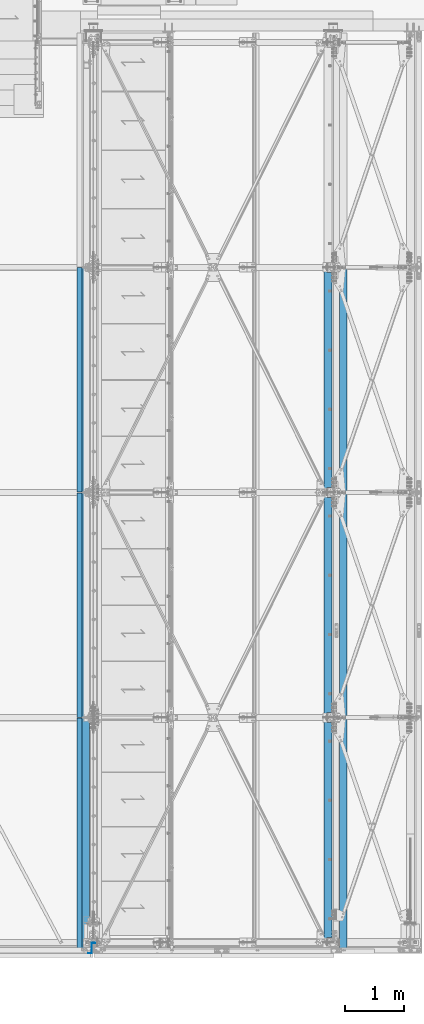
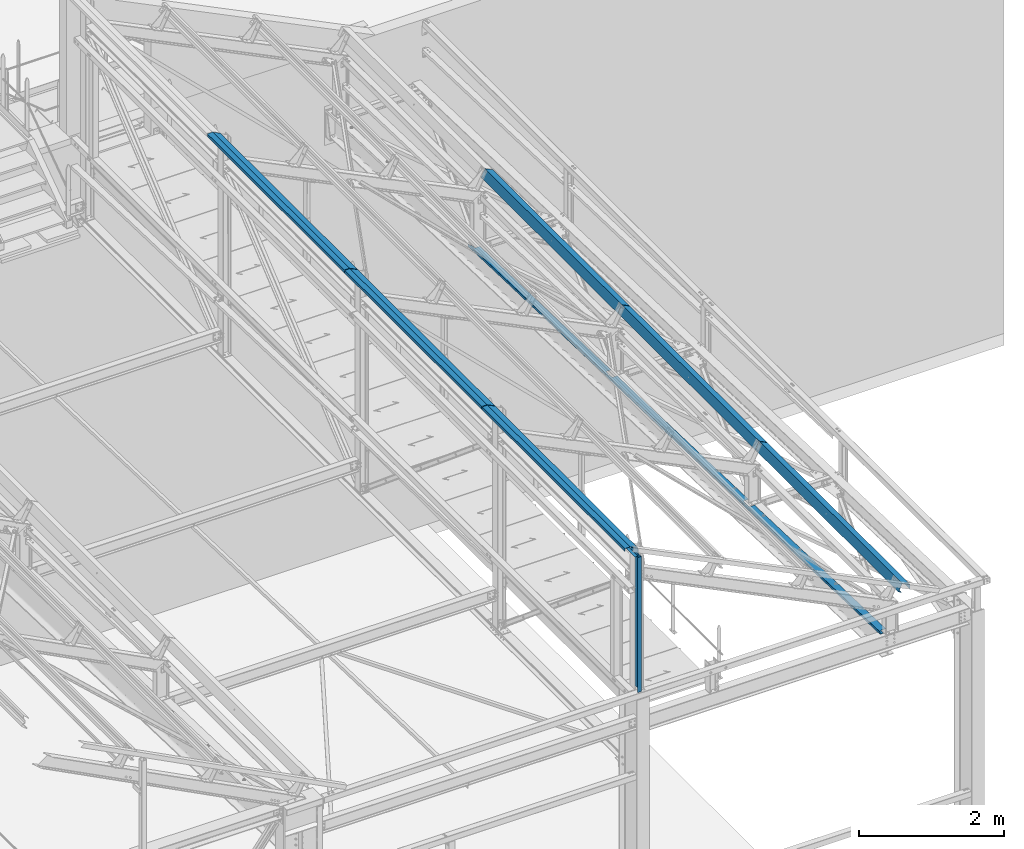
# One storey, part 350 of 362: 10 beams, 10 elements without a shape of their own.
"""IFC2X3 building model written with IfcOpenShell, lengths in millimetres."""

from ifc_helpers import new_model, si_unit, frame, origin_with_axes, place, context, subcontext, project, spatial, faceted_brep, material, type_object, element, aggregate, save


model = new_model("IFC2X3")

# Units and contexts
model_context = context("Model", 3, precision=1e-05, world=origin_with_axes())
body_context = subcontext(model_context, "Body", "Model", "MODEL_VIEW")
ifc_project = project(units=[si_unit("LENGTHUNIT", "METRE", prefix="MILLI"), si_unit("AREAUNIT", "SQUARE_METRE"), si_unit("VOLUMEUNIT", "CUBIC_METRE"), si_unit("MASSUNIT", "GRAM", prefix="KILO"), si_unit("TIMEUNIT", "SECOND"), si_unit("PLANEANGLEUNIT", "RADIAN"), si_unit("SOLIDANGLEUNIT", "STERADIAN"), si_unit("THERMODYNAMICTEMPERATUREUNIT", "DEGREE_CELSIUS"), si_unit("LUMINOUSINTENSITYUNIT", "LUMEN")], contexts=[model_context])

# Site, building, storey
site_placement = place(None, origin_with_axes())
site = spatial("IfcSite", under=ifc_project, at=site_placement, Name="Undefined", CompositionType="ELEMENT")
building_placement = place(site_placement, origin_with_axes())
building = spatial("IfcBuilding", under=site, at=building_placement, Name="Undefined", CompositionType="ELEMENT")
storey_placement = place(building_placement, origin_with_axes())
storey = spatial("IfcBuildingStorey", under=building, at=storey_placement, Name="Undefined", CompositionType="ELEMENT", Elevation=0.0)

# Assembly, beam
assembly_1_placement = place(storey_placement, origin_with_axes())
assembly_1 = element("IfcElementAssembly", 1, at=assembly_1_placement, inside=storey, Name="PANNE SHED", AssemblyPlace="NOTDEFINED", PredefinedType="NOTDEFINED")
ifc_material = material(Name="Undefined/S235-E24")
beam_type_1 = type_object("IfcBeamType", Name="PL3*3790", PredefinedType="NOTDEFINED")
beam_1_placement = place(assembly_1_placement, frame((38418.1250345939, 9500.00038595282, 8769.23312698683), z_axis=(0.0, 1.0, 0.0), x_axis=(-0.897398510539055, -1.29999898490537e-08, 0.441220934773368)))
beam_1 = element("IfcBeam", 2, at=beam_1_placement, type_object=beam_type_1, material=ifc_material, Name="PANNE SHED", ObjectType="PL3*3790", context=body_context, shape_type="Brep", body=[
    faceted_brep([(-3.49427864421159e-08, -1.49999999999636, -1895.0), (-3.52956703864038e-08, -1.5, 1895.0), (3.49573383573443e-08, 1.5, 1895.0), (3.53102223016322e-08, 1.5, -1895.0), (47.0000011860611, 1.49999889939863, 1895.0), (47.0000011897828, 1.49999889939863, -1895.0), (50.0000011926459, -1.50000117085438, -1895.0), (50.0000011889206, -1.50000117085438, 1895.0), (47.0000010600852, 135.50000220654, 1895.00000000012), (47.0000010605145, 135.500002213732, -1894.99999999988), (50.000001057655, 138.500002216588, -1894.99999999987), (50.0000010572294, 138.500002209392, 1895.00000000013), (-88.1320086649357, 135.500006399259, 1895.00000000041), (-88.1320086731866, 135.500006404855, -1894.99999999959), (-90.0000023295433, 138.500002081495, -1894.99999999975), (-90.0000023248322, 138.500002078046, 1895.00000000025), (-122.605485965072, 65.3844594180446, 1895.00000000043), (-122.605485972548, 65.3844594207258, -1894.99999999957), (-125.29768149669, 66.7081222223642, 1895.00000000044), (-125.297681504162, 66.708122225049, -1894.99999999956)], [[[0, 1, 2, 3]], [[3, 2, 4, 5]], [[1, 0, 6, 7]], [[5, 4, 8, 9]], [[7, 6, 10, 11]], [[9, 8, 12, 13]], [[11, 10, 14, 15]], [[13, 12, 16, 17]], [[12, 8, 4, 2, 1, 7, 11, 15, 18, 16]], [[15, 14, 19, 18]], [[14, 10, 6, 0, 3, 5, 9, 13, 17, 19]], [[18, 19, 17, 16]]]),
])
aggregate(assembly_1, [beam_1])

assembly_2_placement = place(storey_placement, origin_with_axes())
assembly_2 = element("IfcElementAssembly", 3, at=assembly_2_placement, inside=storey, Name="PANNE SHED", AssemblyPlace="NOTDEFINED", PredefinedType="NOTDEFINED")
beam_2_placement = place(assembly_2_placement, frame((38418.1250345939, 5700.00038595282, 8769.23312698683), z_axis=(0.0, 1.0, 0.0), x_axis=(-0.897398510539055, -1.29999898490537e-08, 0.441220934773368)))
beam_2 = element("IfcBeam", 4, at=beam_2_placement, type_object=beam_type_1, material=ifc_material, Name="PANNE SHED", ObjectType="PL3*3790", context=body_context, shape_type="Brep", body=[
    faceted_brep([(-3.49427864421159e-08, -1.49999999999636, -1895.0), (-3.52956703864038e-08, -1.5, 1895.0), (3.49573383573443e-08, 1.5, 1895.0), (3.53102223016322e-08, 1.5, -1895.0), (47.0000011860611, 1.49999889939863, 1895.0), (47.0000011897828, 1.49999889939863, -1895.0), (50.0000011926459, -1.50000117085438, -1895.0), (50.0000011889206, -1.50000117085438, 1895.0), (47.0000010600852, 135.50000220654, 1895.00000000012), (47.0000010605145, 135.500002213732, -1894.99999999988), (50.000001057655, 138.500002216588, -1894.99999999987), (50.0000010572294, 138.500002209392, 1895.00000000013), (-88.1320086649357, 135.500006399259, 1895.00000000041), (-88.1320086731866, 135.500006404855, -1894.99999999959), (-90.0000023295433, 138.500002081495, -1894.99999999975), (-90.0000023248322, 138.500002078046, 1895.00000000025), (-122.605485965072, 65.3844594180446, 1895.00000000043), (-122.605485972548, 65.3844594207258, -1894.99999999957), (-125.29768149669, 66.7081222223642, 1895.00000000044), (-125.297681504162, 66.708122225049, -1894.99999999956)], [[[0, 1, 2, 3]], [[3, 2, 4, 5]], [[1, 0, 6, 7]], [[5, 4, 8, 9]], [[7, 6, 10, 11]], [[9, 8, 12, 13]], [[11, 10, 14, 15]], [[13, 12, 16, 17]], [[12, 8, 4, 2, 1, 7, 11, 15, 18, 16]], [[15, 14, 19, 18]], [[14, 10, 6, 0, 3, 5, 9, 13, 17, 19]], [[18, 19, 17, 16]]]),
])
aggregate(assembly_2, [beam_2])

assembly_3_placement = place(storey_placement, origin_with_axes())
assembly_3 = element("IfcElementAssembly", 5, at=assembly_3_placement, inside=storey, Name="PANNE SHED", AssemblyPlace="NOTDEFINED", PredefinedType="NOTDEFINED")
beam_3_placement = place(assembly_3_placement, frame((34004.99999895, 5700.00031982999, 11002.6130365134), z_axis=(0.0, 1.0, 0.0), x_axis=(0.0, 0.0, 1.0)))
beam_3 = element("IfcBeam", 6, at=beam_3_placement, type_object=beam_type_1, material=ifc_material, Name="PANNE SHED", ObjectType="PL3*3790", context=body_context, shape_type="Brep", body=[
    faceted_brep([(-3.49427864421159e-08, -1.49999999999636, -1895.0), (-3.52956703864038e-08, -1.5, 1895.0), (3.49573383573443e-08, 1.5, 1895.0), (3.53102223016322e-08, 1.5, -1895.0), (47.0000011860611, 1.49999889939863, 1895.0), (47.0000011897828, 1.49999889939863, -1895.0), (50.0000011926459, -1.50000117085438, -1895.0), (50.0000011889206, -1.50000117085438, 1895.0), (47.0, 82.166592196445, 1895.0), (47.0, 82.166592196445, -1895.0), (50.0, 82.8642120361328, -1895.0), (50.0, 82.8642120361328, 1895.0), (-13.6389276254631, 205.5, 1895.0), (-13.6389276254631, 205.5, -1895.0), (-11.7709312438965, 208.5, -1895.0), (-11.7709312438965, 208.5, 1895.0), (-148.770935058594, 205.5, 1895.0), (-148.770935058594, 205.5, -1895.0), (-151.770935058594, 208.5, -1895.0), (-151.770935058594, 208.5, 1895.0), (-148.770935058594, 158.5, 1895.0), (-148.770935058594, 158.5, -1895.0), (-151.770935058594, 158.5, 1895.0), (-151.770935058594, 158.5, -1895.0)], [[[0, 1, 2, 3]], [[3, 2, 4, 5]], [[1, 0, 6, 7]], [[5, 4, 8, 9]], [[7, 6, 10, 11]], [[9, 8, 12, 13]], [[11, 10, 14, 15]], [[13, 12, 16, 17]], [[15, 14, 18, 19]], [[17, 16, 20, 21]], [[16, 12, 8, 4, 2, 1, 7, 11, 15, 19, 22, 20]], [[19, 18, 23, 22]], [[18, 14, 10, 6, 0, 3, 5, 9, 13, 17, 21, 23]], [[22, 23, 21, 20]]]),
])
aggregate(assembly_3, [beam_3])

assembly_4_placement = place(storey_placement, origin_with_axes())
assembly_4 = element("IfcElementAssembly", 7, at=assembly_4_placement, inside=storey, Name="PANNE SHED", AssemblyPlace="NOTDEFINED", PredefinedType="NOTDEFINED")
beam_4_placement = place(assembly_4_placement, frame((34004.99999895, 9500.00031982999, 11002.6130365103), z_axis=(0.0, 1.0, 0.0), x_axis=(0.0, 0.0, 1.0)))
beam_4 = element("IfcBeam", 8, at=beam_4_placement, type_object=beam_type_1, material=ifc_material, Name="PANNE SHED", ObjectType="PL3*3790", context=body_context, shape_type="Brep", body=[
    faceted_brep([(-3.49427864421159e-08, -1.49999999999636, -1895.0), (-3.52956703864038e-08, -1.5, 1895.0), (3.49573383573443e-08, 1.5, 1895.0), (3.53102223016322e-08, 1.5, -1895.0), (47.0000011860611, 1.49999889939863, 1895.0), (47.0000011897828, 1.49999889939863, -1895.0), (50.0000011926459, -1.50000117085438, -1895.0), (50.0000011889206, -1.50000117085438, 1895.0), (47.0, 82.166592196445, 1895.0), (47.0, 82.166592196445, -1895.0), (50.0, 82.8642120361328, -1895.0), (50.0, 82.8642120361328, 1895.0), (-13.6389276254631, 205.5, 1895.0), (-13.6389276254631, 205.5, -1895.0), (-11.7709312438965, 208.5, -1895.0), (-11.7709312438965, 208.5, 1895.0), (-148.770935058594, 205.5, 1895.0), (-148.770935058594, 205.5, -1895.0), (-151.770935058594, 208.5, -1895.0), (-151.770935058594, 208.5, 1895.0), (-148.770935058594, 158.5, 1895.0), (-148.770935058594, 158.5, -1895.0), (-151.770935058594, 158.5, 1895.0), (-151.770935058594, 158.5, -1895.0)], [[[0, 1, 2, 3]], [[3, 2, 4, 5]], [[1, 0, 6, 7]], [[5, 4, 8, 9]], [[7, 6, 10, 11]], [[9, 8, 12, 13]], [[11, 10, 14, 15]], [[13, 12, 16, 17]], [[15, 14, 18, 19]], [[17, 16, 20, 21]], [[16, 12, 8, 4, 2, 1, 7, 11, 15, 19, 22, 20]], [[19, 18, 23, 22]], [[18, 14, 10, 6, 0, 3, 5, 9, 13, 17, 21, 23]], [[22, 23, 21, 20]]]),
])
aggregate(assembly_4, [beam_4])

assembly_5_placement = place(storey_placement, origin_with_axes())
assembly_5 = element("IfcElementAssembly", 9, at=assembly_5_placement, inside=storey, Name="POUTRE", AssemblyPlace="NOTDEFINED", PredefinedType="NOTDEFINED")
beam_type_2 = type_object("IfcBeamType", Name="PL2*4000", PredefinedType="NOTDEFINED")
beam_5_placement = place(assembly_5_placement, frame((38309.9999999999, 1899.71695010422, 7991.29997216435), z_axis=(3.14103090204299e-11, 0.999506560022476, -0.0314107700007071), x_axis=(-1.0, 0.0, 0.0)))
beam_5 = element("IfcBeam", 10, at=beam_5_placement, type_object=beam_type_2, material=ifc_material, Name="POUTRE", ObjectType="PL2*4000", context=body_context, shape_type="Brep", body=[
    faceted_brep([(84.9999999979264, 0.999999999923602, 1895.93800542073), (84.9999999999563, 0.999999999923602, 1815.93800543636), (84.9999999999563, -1.00000000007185, 1815.93800543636), (84.9999999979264, -1.00000000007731, 1895.93800542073), (7.27595761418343e-12, 1.00000000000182, 1815.93800543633), (0.0, -0.999999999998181, 1815.93800543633), (137.999999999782, 39.0000003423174, -1895.93800544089), (137.999999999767, 0.999999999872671, -1895.9380054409), (137.999999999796, 0.999999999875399, 1895.93800542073), (137.999999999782, 39.0000003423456, 1895.93800542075), (139.999999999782, 39.0000003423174, -1895.93800544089), (139.999999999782, 39.0000003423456, 1895.93800542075), (139.999999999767, -1.00000000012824, -1895.93800544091), (139.999999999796, -1.00000000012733, 1895.93800542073), (85.0000000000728, -1.00000000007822, -1895.93800544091), (85.0000000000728, 0.999999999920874, -1895.9380054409), (85.0000000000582, -1.00000000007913, -1815.93800540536), (85.0000000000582, 0.999999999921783, -1815.93800540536), (0.0, 1.0, -1815.93800540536), (-7.27595761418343e-12, -1.00000000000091, -1815.93800540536)], [[[0, 1, 2, 3]], [[4, 5, 2, 1]], [[6, 7, 8, 9]], [[10, 6, 9, 11]], [[12, 10, 11, 13]], [[7, 6, 10, 12, 14, 15]], [[15, 14, 16, 17]], [[18, 17, 16, 19]], [[0, 8, 7, 15, 17, 18, 4, 1]], [[13, 11, 9, 8, 0, 3]], [[19, 16, 14, 12, 13, 3, 2, 5]], [[18, 19, 5, 4]]]),
])
aggregate(assembly_5, [beam_5])

assembly_6_placement = place(storey_placement, origin_with_axes())
assembly_6 = element("IfcElementAssembly", 11, at=assembly_6_placement, inside=storey, Name="POUTRE", AssemblyPlace="NOTDEFINED", PredefinedType="NOTDEFINED")
beam_6_placement = place(assembly_6_placement, frame((38309.9999999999, 5699.71696464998, 7871.88016099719), z_axis=(3.14103090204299e-11, 0.999506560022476, -0.0314107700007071), x_axis=(-1.0, 0.0, 0.0)))
beam_6 = element("IfcBeam", 12, at=beam_6_placement, type_object=beam_type_2, material=ifc_material, Name="POUTRE", ObjectType="PL2*4000", context=body_context, shape_type="Brep", body=[
    faceted_brep([(84.9999999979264, 0.999999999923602, 1895.93800542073), (84.9999999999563, 0.999999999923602, 1815.93800543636), (84.9999999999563, -1.00000000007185, 1815.93800543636), (84.9999999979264, -1.00000000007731, 1895.93800542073), (7.27595761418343e-12, 1.00000000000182, 1815.93800543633), (0.0, -0.999999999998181, 1815.93800543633), (137.999999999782, 39.0000003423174, -1895.93800544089), (137.999999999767, 0.999999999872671, -1895.9380054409), (137.999999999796, 0.999999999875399, 1895.93800542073), (137.999999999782, 39.0000003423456, 1895.93800542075), (139.999999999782, 39.0000003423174, -1895.93800544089), (139.999999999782, 39.0000003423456, 1895.93800542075), (139.999999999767, -1.00000000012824, -1895.93800544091), (139.999999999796, -1.00000000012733, 1895.93800542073), (85.0000000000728, -1.00000000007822, -1895.93800544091), (85.0000000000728, 0.999999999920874, -1895.9380054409), (85.0000000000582, -1.00000000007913, -1815.93800540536), (85.0000000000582, 0.999999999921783, -1815.93800540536), (0.0, 1.0, -1815.93800540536), (-7.27595761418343e-12, -1.00000000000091, -1815.93800540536)], [[[0, 1, 2, 3]], [[4, 5, 2, 1]], [[6, 7, 8, 9]], [[10, 6, 9, 11]], [[12, 10, 11, 13]], [[7, 6, 10, 12, 14, 15]], [[15, 14, 16, 17]], [[18, 17, 16, 19]], [[0, 8, 7, 15, 17, 18, 4, 1]], [[13, 11, 9, 8, 0, 3]], [[19, 16, 14, 12, 13, 3, 2, 5]], [[18, 19, 5, 4]]]),
])
aggregate(assembly_6, [beam_6])

assembly_7_placement = place(storey_placement, origin_with_axes())
assembly_7 = element("IfcElementAssembly", 13, at=assembly_7_placement, inside=storey, Name="POUTRE", AssemblyPlace="NOTDEFINED", PredefinedType="NOTDEFINED")
beam_7_placement = place(assembly_7_placement, frame((38309.9999999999, 9499.71697919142, 7752.46034983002), z_axis=(3.14103090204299e-11, 0.999506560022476, -0.0314107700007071), x_axis=(-1.0, 0.0, 0.0)))
beam_7 = element("IfcBeam", 14, at=beam_7_placement, type_object=beam_type_2, material=ifc_material, Name="POUTRE", ObjectType="PL2*4000", context=body_context, shape_type="Brep", body=[
    faceted_brep([(84.9999999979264, 0.999999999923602, 1895.93800542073), (84.9999999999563, 0.999999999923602, 1815.93800543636), (84.9999999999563, -1.00000000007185, 1815.93800543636), (84.9999999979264, -1.00000000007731, 1895.93800542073), (7.27595761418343e-12, 1.00000000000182, 1815.93800543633), (0.0, -0.999999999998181, 1815.93800543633), (137.999999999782, 39.0000003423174, -1895.93800544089), (137.999999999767, 0.999999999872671, -1895.9380054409), (137.999999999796, 0.999999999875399, 1895.93800542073), (137.999999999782, 39.0000003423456, 1895.93800542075), (139.999999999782, 39.0000003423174, -1895.93800544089), (139.999999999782, 39.0000003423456, 1895.93800542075), (139.999999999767, -1.00000000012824, -1895.93800544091), (139.999999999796, -1.00000000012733, 1895.93800542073), (85.0000000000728, -1.00000000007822, -1895.93800544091), (85.0000000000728, 0.999999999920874, -1895.9380054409), (85.0000000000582, -1.00000000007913, -1815.93800540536), (85.0000000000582, 0.999999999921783, -1815.93800540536), (0.0, 1.0, -1815.93800540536), (-7.27595761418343e-12, -1.00000000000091, -1815.93800540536)], [[[0, 1, 2, 3]], [[4, 5, 2, 1]], [[6, 7, 8, 9]], [[10, 6, 9, 11]], [[12, 10, 11, 13]], [[7, 6, 10, 12, 14, 15]], [[15, 14, 16, 17]], [[18, 17, 16, 19]], [[0, 8, 7, 15, 17, 18, 4, 1]], [[13, 11, 9, 8, 0, 3]], [[19, 16, 14, 12, 13, 3, 2, 5]], [[18, 19, 5, 4]]]),
])
aggregate(assembly_7, [beam_7])

assembly_8_placement = place(storey_placement, origin_with_axes())
assembly_8 = element("IfcElementAssembly", 15, at=assembly_8_placement, inside=storey, AssemblyPlace="NOTDEFINED", PredefinedType="NOTDEFINED")
beam_type_3 = type_object("IfcBeamType", Name="PL3*2280", PredefinedType="NOTDEFINED")
beam_8_placement = place(assembly_8_placement, frame((34310.0000001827, -4.25, 9710.0000000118), z_axis=(0.0, 0.0, 1.0), x_axis=(-1.0, 0.0, 0.0)))
beam_8 = element("IfcBeam", 16, at=beam_8_placement, type_object=beam_type_3, material=ifc_material, Name="FEUILLURE", ObjectType="PL3*2280", context=body_context, shape_type="Brep", body=[
    faceted_brep([(0.0, -1.5, -1140.0), (0.0, -1.5, 1140.0), (0.0, 1.5, 1140.0), (0.0, 1.5, -1140.0), (56.9999998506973, 1.5, 1140.0), (56.9999998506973, 1.5, -1140.0), (59.9999998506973, -1.5, -1140.0), (59.9999998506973, -1.5, 1140.0), (56.9999998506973, 175.75, 1140.0), (56.9999998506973, 175.75, -1140.0), (59.9999998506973, 172.75, -1140.0), (59.9999998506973, 172.75, 1140.0), (117.0, 175.75, 1140.0), (117.0, 175.75, -1140.0), (117.0, 172.75, 1140.0), (117.0, 172.75, -1140.0)], [[[0, 1, 2, 3]], [[3, 2, 4, 5]], [[1, 0, 6, 7]], [[5, 4, 8, 9]], [[7, 6, 10, 11]], [[9, 8, 12, 13]], [[8, 4, 2, 1, 7, 11, 14, 12]], [[11, 10, 15, 14]], [[10, 6, 0, 3, 5, 9, 13, 15]], [[14, 15, 13, 12]]]),
])
aggregate(assembly_8, [beam_8])

assembly_9_placement = place(storey_placement, origin_with_axes())
assembly_9 = element("IfcElementAssembly", 17, at=assembly_9_placement, inside=storey, Name="PANNE SHED", AssemblyPlace="NOTDEFINED", PredefinedType="NOTDEFINED")
beam_type_4 = type_object("IfcBeamType", Name="PL3*3950", PredefinedType="NOTDEFINED")
beam_9_placement = place(assembly_9_placement, frame((38418.1250345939, 1820.00038595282, 8769.23312698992), z_axis=(0.0, 1.0, 0.0), x_axis=(-0.897398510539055, -1.29999898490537e-08, 0.441220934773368)))
beam_9 = element("IfcBeam", 18, at=beam_9_placement, type_object=beam_type_4, material=ifc_material, Name="PANNE SHED", ObjectType="PL3*3950", context=body_context, shape_type="Brep", body=[
    faceted_brep([(-4.57112037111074e-09, -1.5, -1975.0), (-2.82489054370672e-09, -1.49999999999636, 1975.0), (4.56748239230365e-09, 1.50000000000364, 1975.0), (2.82125256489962e-09, 1.5, -1975.0), (46.9999982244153, 1.49999988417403, 1974.99999999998), (46.9999982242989, 1.49999988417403, -1975.00000000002), (49.9999982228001, -1.50000012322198, -1975.00000000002), (49.9999982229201, -1.50000012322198, 1974.99999999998), (46.999998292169, 135.499998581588, 1975.00000000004), (46.9999982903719, 135.499998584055, -1974.99999999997), (49.9999982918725, 138.499998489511, -1974.99999999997), (49.9999982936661, 138.499998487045, 1975.00000000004), (-88.132008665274, 135.500006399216, 1975.00000000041), (-88.1320086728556, 135.500006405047, -1974.99999999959), (-90.0000045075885, 138.50000290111, -1974.99999999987), (-90.0000045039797, 138.500002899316, 1975.00000000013), (-122.605485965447, 65.38445941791, 1975.00000000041), (-122.605485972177, 65.3844594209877, -1974.99999999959), (-125.297681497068, 66.7081222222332, 1975.00000000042), (-125.297681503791, 66.7081222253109, -1974.99999999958)], [[[0, 1, 2, 3]], [[3, 2, 4, 5]], [[1, 0, 6, 7]], [[5, 4, 8, 9]], [[7, 6, 10, 11]], [[9, 8, 12, 13]], [[11, 10, 14, 15]], [[13, 12, 16, 17]], [[12, 8, 4, 2, 1, 7, 11, 15, 18, 16]], [[15, 14, 19, 18]], [[14, 10, 6, 0, 3, 5, 9, 13, 17, 19]], [[18, 19, 17, 16]]]),
])
aggregate(assembly_9, [beam_9])

assembly_10_placement = place(storey_placement, origin_with_axes())
assembly_10 = element("IfcElementAssembly", 19, at=assembly_10_placement, inside=storey, Name="PANNE SHED", AssemblyPlace="NOTDEFINED", PredefinedType="NOTDEFINED")
beam_10_placement = place(assembly_10_placement, frame((34004.99999895, 1820.00031982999, 11002.6130365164), z_axis=(0.0, -1.0, 0.0), x_axis=(0.0, 0.0, 1.0)))
beam_10 = element("IfcBeam", 20, at=beam_10_placement, type_object=beam_type_4, material=ifc_material, Name="PANNE SHED", ObjectType="PL3*3950", context=body_context, shape_type="Brep", body=[
    faceted_brep([(-4.57112037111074e-09, -1.5, -1975.0), (-2.82489054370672e-09, -1.49999999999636, 1975.0), (4.56748239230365e-09, 1.50000000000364, 1975.0), (2.82125256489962e-09, 1.5, -1975.0), (50.0, 1.5, 1975.0), (50.0, 1.5, -1975.0), (47.0, -1.5, -1975.0), (47.0, -1.5, 1975.0), (50.0, -82.8642120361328, 1975.0), (50.0, -82.8642120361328, -1975.0), (47.0, -82.166592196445, -1975.0), (47.0, -82.166592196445, 1975.0), (-11.7709312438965, -208.5, 1975.0), (-11.7709312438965, -208.5, -1975.0), (-13.6389276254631, -205.5, -1975.0), (-13.6389276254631, -205.5, 1975.0), (-151.770935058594, -208.5, 1975.0), (-151.770935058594, -208.5, -1975.0), (-148.770935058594, -205.5, -1975.0), (-148.770935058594, -205.5, 1975.0), (-151.770935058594, -158.5, 1975.0), (-151.770935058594, -158.5, -1975.0), (-148.770935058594, -158.5, 1975.0), (-148.770935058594, -158.5, -1975.0)], [[[0, 1, 2, 3]], [[3, 2, 4, 5]], [[1, 0, 6, 7]], [[5, 4, 8, 9]], [[7, 6, 10, 11]], [[9, 8, 12, 13]], [[11, 10, 14, 15]], [[13, 12, 16, 17]], [[15, 14, 18, 19]], [[17, 16, 20, 21]], [[16, 12, 8, 4, 2, 1, 7, 11, 15, 19, 22, 20]], [[19, 18, 23, 22]], [[18, 14, 10, 6, 0, 3, 5, 9, 13, 17, 21, 23]], [[22, 23, 21, 20]]]),
])
aggregate(assembly_10, [beam_10])

save(model, "model.ifc")
